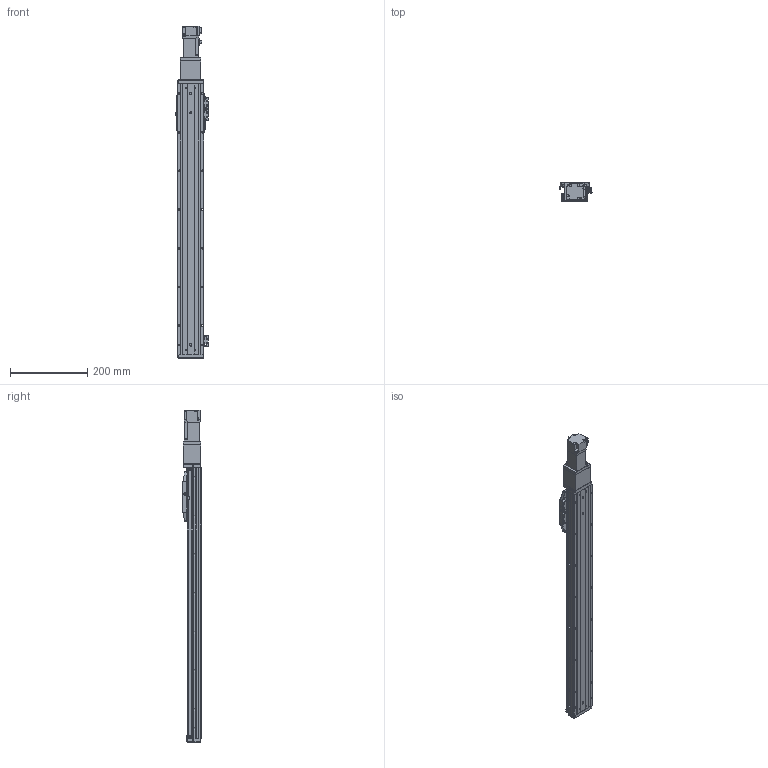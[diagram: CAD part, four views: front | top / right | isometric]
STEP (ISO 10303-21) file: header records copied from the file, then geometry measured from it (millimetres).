
FILE_DESCRIPTION (( 'STEP AP214' ), '1' );
FILE_NAME ('CTHA60-550-BC-M10-C4L.step', '2022-03-19T06:10:45', ( '微软用户' ), ( '微软中国' ), 'SwSTEP 2.0', 'SolidWorks 2020', '' );
FILE_SCHEMA (( 'AUTOMOTIVE_DESIGN' ));
Length unit declared in the file: millimetre
Products named in the file (19): CTHA60-017; GBT77-2000 M3×3; CTHA60-016; CTHA60-001_700; CTHA60-006; GB¨uT 70.2-M3¡Á6_M3¡Á6; CTHA60-031; CTHA60-021; GBT 70.1-M3℅6; CTHA60-027; CTHA60-004; HG-KR13（三菱）; EE_SX911P_R; CTHA60-550-BC-M10-C4L; GBT 70.1-M4×16; GBT 70.3-M3℅6; CTHA60-013; CTHA60-005; CTHA60-002
Assembly tree (57 placements, depth 2):
  CTHA60-550-BC-M10-C4L
    CTHA60-001_700
    CTHA60-004
    CTHA60-005
    GB¨uT 70.2-M3¡Á6_M3¡Á6  x10
    EE_SX911P_R  x3
    CTHA60-017  x3
    CTHA60-021  x2
    GBT 70.1-M4×16  x10
    GBT77-2000 M3×3  x6
    GBT 70.1-M3℅6  x6
    GBT 70.3-M3℅6  x6
    CTHA60-016  x2
    CTHA60-027
    CTHA60-013
    CTHA60-006
    HG-KR13（三菱）
    CTHA60-002
    CTHA60-031
Bounding box: 83.12 x 48 x 858.6 mm (x, y, z)
Volume: 1389246.7 mm3; surface area: 387976.9 mm2
Topology: 59 solids, 59 shells, 2475 faces, 5909 edges, 3623 vertices
Faces by surface type: plane 1438, cylinder 555, cone 362, torus 96, sphere 24
Entity records: 39756 total; most frequent: CARTESIAN_POINT 6704, DIRECTION 6602, ORIENTED_EDGE 6398, EDGE_CURVE 3199, LINE 2358, VECTOR 2358, AXIS2_PLACEMENT_3D 2122, VERTEX_POINT 2020
